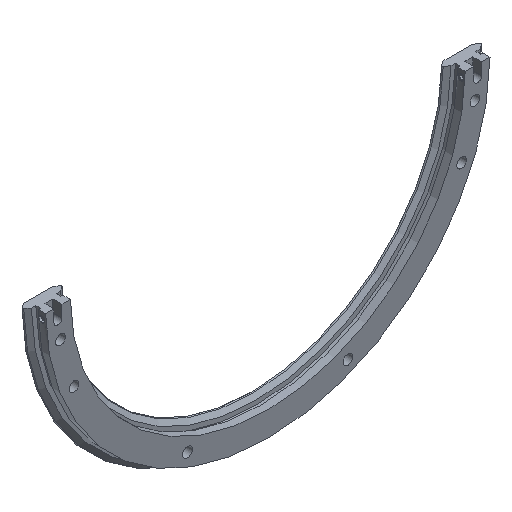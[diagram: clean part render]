
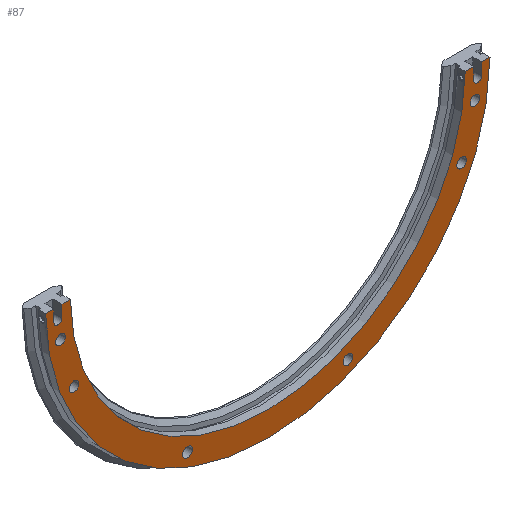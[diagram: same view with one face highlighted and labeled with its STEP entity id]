
A CAD part, isometric view. The second image highlights one B-rep face of the part: STEP entity #87.
In plain terms, the highlighted planar face has unit normal (0, -1, 0).
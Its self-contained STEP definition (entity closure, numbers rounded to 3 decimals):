
#87 = ADVANCED_FACE( '', ( #187, #188, #189, #190, #191, #192, #193 ), #194, .T. );
#187 = FACE_BOUND( '', #390, .T. );
#188 = FACE_BOUND( '', #391, .T. );
#189 = FACE_BOUND( '', #392, .T. );
#190 = FACE_BOUND( '', #393, .T. );
#191 = FACE_BOUND( '', #394, .T. );
#192 = FACE_BOUND( '', #395, .T. );
#193 = FACE_OUTER_BOUND( '', #396, .T. );
#194 = PLANE( '', #397 );
#390 = EDGE_LOOP( '', ( #648 ) );
#391 = EDGE_LOOP( '', ( #649 ) );
#392 = EDGE_LOOP( '', ( #650 ) );
#393 = EDGE_LOOP( '', ( #651 ) );
#394 = EDGE_LOOP( '', ( #652 ) );
#395 = EDGE_LOOP( '', ( #653 ) );
#396 = EDGE_LOOP( '', ( #654, #655, #656, #657, #658, #659, #660, #661, #662, #663, #664, #665 ) );
#397 = AXIS2_PLACEMENT_3D( '', #666, #667, #668 );
#648 = ORIENTED_EDGE( '', *, *, #1196, .F. );
#649 = ORIENTED_EDGE( '', *, *, #1197, .F. );
#650 = ORIENTED_EDGE( '', *, *, #1198, .F. );
#651 = ORIENTED_EDGE( '', *, *, #1199, .F. );
#652 = ORIENTED_EDGE( '', *, *, #1188, .F. );
#653 = ORIENTED_EDGE( '', *, *, #1192, .F. );
#654 = ORIENTED_EDGE( '', *, *, #1200, .T. );
#655 = ORIENTED_EDGE( '', *, *, #1201, .T. );
#656 = ORIENTED_EDGE( '', *, *, #1155, .T. );
#657 = ORIENTED_EDGE( '', *, *, #1202, .F. );
#658 = ORIENTED_EDGE( '', *, *, #1203, .T. );
#659 = ORIENTED_EDGE( '', *, *, #1184, .T. );
#660 = ORIENTED_EDGE( '', *, *, #1181, .T. );
#661 = ORIENTED_EDGE( '', *, *, #1186, .T. );
#662 = ORIENTED_EDGE( '', *, *, #1204, .T. );
#663 = ORIENTED_EDGE( '', *, *, #1205, .T. );
#664 = ORIENTED_EDGE( '', *, *, #1159, .T. );
#665 = ORIENTED_EDGE( '', *, *, #1206, .T. );
#666 = CARTESIAN_POINT( '', ( -98.8, 0., 0. ) );
#667 = DIRECTION( '', ( 0., -1., 0. ) );
#668 = DIRECTION( '', ( 0., 0., -1. ) );
#1155 = EDGE_CURVE( '', #1332, #1333, #1334, .T. );
#1159 = EDGE_CURVE( '', #1341, #1339, #1342, .T. );
#1181 = EDGE_CURVE( '', #1384, #1385, #1386, .T. );
#1184 = EDGE_CURVE( '', #1389, #1384, #1390, .T. );
#1186 = EDGE_CURVE( '', #1385, #1392, #1393, .T. );
#1188 = EDGE_CURVE( '', #1395, #1395, #1396, .T. );
#1192 = EDGE_CURVE( '', #1403, #1403, #1404, .T. );
#1196 = EDGE_CURVE( '', #1411, #1411, #1412, .T. );
#1197 = EDGE_CURVE( '', #1413, #1413, #1414, .T. );
#1198 = EDGE_CURVE( '', #1415, #1415, #1416, .T. );
#1199 = EDGE_CURVE( '', #1417, #1417, #1418, .T. );
#1200 = EDGE_CURVE( '', #1419, #1420, #1421, .T. );
#1201 = EDGE_CURVE( '', #1420, #1332, #1422, .T. );
#1202 = EDGE_CURVE( '', #1423, #1333, #1424, .T. );
#1203 = EDGE_CURVE( '', #1423, #1389, #1425, .T. );
#1204 = EDGE_CURVE( '', #1392, #1426, #1427, .T. );
#1205 = EDGE_CURVE( '', #1426, #1341, #1428, .T. );
#1206 = EDGE_CURVE( '', #1339, #1419, #1429, .T. );
#1332 = VERTEX_POINT( '', #1636 );
#1333 = VERTEX_POINT( '', #1637 );
#1334 = LINE( '', #1638, #1639 );
#1339 = VERTEX_POINT( '', #1646 );
#1341 = VERTEX_POINT( '', #1649 );
#1342 = LINE( '', #1650, #1651 );
#1384 = VERTEX_POINT( '', #1782 );
#1385 = VERTEX_POINT( '', #1783 );
#1386 = CIRCLE( '', #1784, 2. );
#1389 = VERTEX_POINT( '', #1789 );
#1390 = LINE( '', #1790, #1791 );
#1392 = VERTEX_POINT( '', #1794 );
#1393 = LINE( '', #1795, #1796 );
#1395 = VERTEX_POINT( '', #1799 );
#1396 = CIRCLE( '', #1800, 2.45 );
#1403 = VERTEX_POINT( '', #1807 );
#1404 = CIRCLE( '', #1808, 2.45 );
#1411 = VERTEX_POINT( '', #1815 );
#1412 = CIRCLE( '', #1816, 2.45 );
#1413 = VERTEX_POINT( '', #1817 );
#1414 = CIRCLE( '', #1818, 2.45 );
#1415 = VERTEX_POINT( '', #1819 );
#1416 = CIRCLE( '', #1820, 2.45 );
#1417 = VERTEX_POINT( '', #1821 );
#1418 = CIRCLE( '', #1822, 2.45 );
#1419 = VERTEX_POINT( '', #1823 );
#1420 = VERTEX_POINT( '', #1824 );
#1421 = CIRCLE( '', #1825, 2. );
#1422 = LINE( '', #1826, #1827 );
#1423 = VERTEX_POINT( '', #1828 );
#1424 = CIRCLE( '', #1829, 98.8 );
#1425 = LINE( '', #1830, #1831 );
#1426 = VERTEX_POINT( '', #1832 );
#1427 = LINE( '', #1833, #1834 );
#1428 = CIRCLE( '', #1835, 111.2 );
#1429 = LINE( '', #1836, #1837 );
#1636 = CARTESIAN_POINT( '', ( 103., 0., -1.5 ) );
#1637 = CARTESIAN_POINT( '', ( 98.789, 0., -1.5 ) );
#1638 = CARTESIAN_POINT( '', ( 115.185, 0., -1.5 ) );
#1639 = VECTOR( '', #2306, 1000. );
#1646 = CARTESIAN_POINT( '', ( 107., 0., -1.5 ) );
#1649 = CARTESIAN_POINT( '', ( 111.19, 0., -1.5 ) );
#1650 = CARTESIAN_POINT( '', ( 115.185, 0., -1.5 ) );
#1651 = VECTOR( '', #2310, 1000. );
#1782 = CARTESIAN_POINT( '', ( -103., 0., -7.5 ) );
#1783 = CARTESIAN_POINT( '', ( -107., 0., -7.5 ) );
#1784 = AXIS2_PLACEMENT_3D( '', #2329, #2330, #2331 );
#1789 = CARTESIAN_POINT( '', ( -103., 0., -1.5 ) );
#1790 = CARTESIAN_POINT( '', ( -103., 0., 0. ) );
#1791 = VECTOR( '', #2334, 1000. );
#1794 = CARTESIAN_POINT( '', ( -107., 0., -1.5 ) );
#1795 = CARTESIAN_POINT( '', ( -107., 0., -7.5 ) );
#1796 = VECTOR( '', #2336, 1000. );
#1799 = CARTESIAN_POINT( '', ( -97.007, 0., -42.632 ) );
#1800 = AXIS2_PLACEMENT_3D( '', #2338, #2339, #2340 );
#1807 = CARTESIAN_POINT( '', ( -40.182, 0., -99.457 ) );
#1808 = AXIS2_PLACEMENT_3D( '', #2350, #2351, #2352 );
#1815 = CARTESIAN_POINT( '', ( 103.695, 0., -18.95 ) );
#1816 = AXIS2_PLACEMENT_3D( '', #2362, #2363, #2364 );
#1817 = CARTESIAN_POINT( '', ( -103.695, 0., -18.95 ) );
#1818 = AXIS2_PLACEMENT_3D( '', #2365, #2366, #2367 );
#1819 = CARTESIAN_POINT( '', ( 97.007, 0., -42.632 ) );
#1820 = AXIS2_PLACEMENT_3D( '', #2368, #2369, #2370 );
#1821 = CARTESIAN_POINT( '', ( 40.182, 0., -99.457 ) );
#1822 = AXIS2_PLACEMENT_3D( '', #2371, #2372, #2373 );
#1823 = CARTESIAN_POINT( '', ( 107., 0., -7.5 ) );
#1824 = CARTESIAN_POINT( '', ( 103., 0., -7.5 ) );
#1825 = AXIS2_PLACEMENT_3D( '', #2374, #2375, #2376 );
#1826 = CARTESIAN_POINT( '', ( 103., 0., -7.5 ) );
#1827 = VECTOR( '', #2377, 1000. );
#1828 = CARTESIAN_POINT( '', ( -98.789, 0., -1.5 ) );
#1829 = AXIS2_PLACEMENT_3D( '', #2378, #2379, #2380 );
#1830 = CARTESIAN_POINT( '', ( 115.185, 0., -1.5 ) );
#1831 = VECTOR( '', #2381, 1000. );
#1832 = CARTESIAN_POINT( '', ( -111.19, 0., -1.5 ) );
#1833 = CARTESIAN_POINT( '', ( 115.185, 0., -1.5 ) );
#1834 = VECTOR( '', #2382, 1000. );
#1835 = AXIS2_PLACEMENT_3D( '', #2383, #2384, #2385 );
#1836 = CARTESIAN_POINT( '', ( 107., 0., 0. ) );
#1837 = VECTOR( '', #2386, 1000. );
#2306 = DIRECTION( '', ( -1., 0., 0. ) );
#2310 = DIRECTION( '', ( -1., 0., 0. ) );
#2329 = CARTESIAN_POINT( '', ( -105., 0., -7.5 ) );
#2330 = DIRECTION( '', ( 0., 1., 0. ) );
#2331 = DIRECTION( '', ( 1., 0., 0. ) );
#2334 = DIRECTION( '', ( 0., 0., -1. ) );
#2336 = DIRECTION( '', ( 0., 0., 1. ) );
#2338 = CARTESIAN_POINT( '', ( -97.007, 0., -40.182 ) );
#2339 = DIRECTION( '', ( 0., -1., 0. ) );
#2340 = DIRECTION( '', ( 0., 0., -1. ) );
#2350 = CARTESIAN_POINT( '', ( -40.182, 0., -97.007 ) );
#2351 = DIRECTION( '', ( 0., -1., 0. ) );
#2352 = DIRECTION( '', ( 0., 0., -1. ) );
#2362 = CARTESIAN_POINT( '', ( 103.695, 0., -16.5 ) );
#2363 = DIRECTION( '', ( 0., -1., 0. ) );
#2364 = DIRECTION( '', ( 0., 0., -1. ) );
#2365 = CARTESIAN_POINT( '', ( -103.695, 0., -16.5 ) );
#2366 = DIRECTION( '', ( 0., -1., 0. ) );
#2367 = DIRECTION( '', ( 0., 0., -1. ) );
#2368 = CARTESIAN_POINT( '', ( 97.007, 0., -40.182 ) );
#2369 = DIRECTION( '', ( 0., -1., 0. ) );
#2370 = DIRECTION( '', ( 0., 0., -1. ) );
#2371 = CARTESIAN_POINT( '', ( 40.182, 0., -97.007 ) );
#2372 = DIRECTION( '', ( 0., -1., 0. ) );
#2373 = DIRECTION( '', ( 0., 0., -1. ) );
#2374 = CARTESIAN_POINT( '', ( 105., 0., -7.5 ) );
#2375 = DIRECTION( '', ( 0., 1., 0. ) );
#2376 = DIRECTION( '', ( 1., 0., 0. ) );
#2377 = DIRECTION( '', ( 0., 0., 1. ) );
#2378 = CARTESIAN_POINT( '', ( 0., 0., 0. ) );
#2379 = DIRECTION( '', ( 0., -1., 0. ) );
#2380 = DIRECTION( '', ( 0., 0., -1. ) );
#2381 = DIRECTION( '', ( -1., 0., 0. ) );
#2382 = DIRECTION( '', ( -1., 0., 0. ) );
#2383 = CARTESIAN_POINT( '', ( 0., 0., 0. ) );
#2384 = DIRECTION( '', ( 0., -1., 0. ) );
#2385 = DIRECTION( '', ( 0., 0., -1. ) );
#2386 = DIRECTION( '', ( 0., 0., -1. ) );
